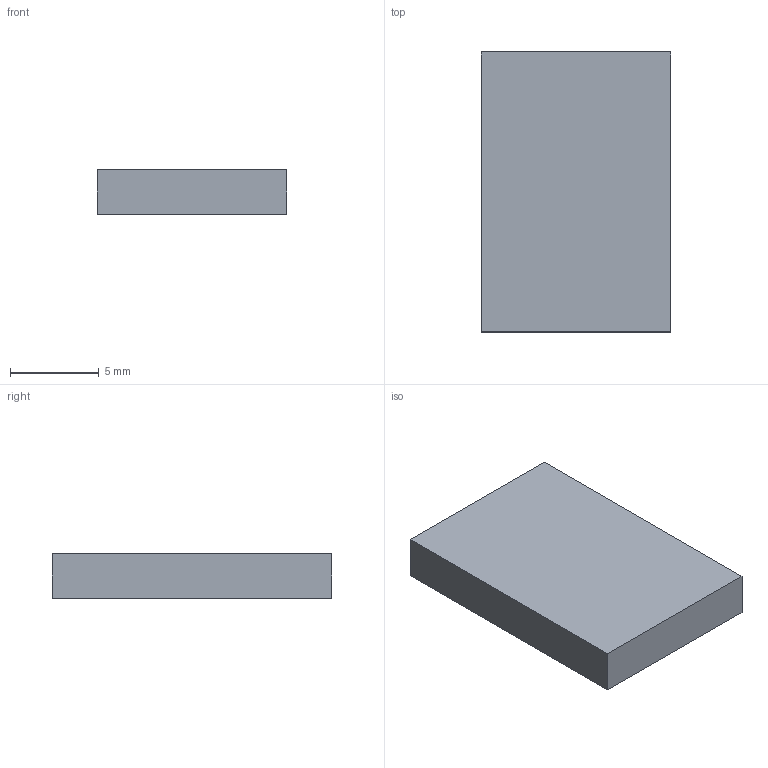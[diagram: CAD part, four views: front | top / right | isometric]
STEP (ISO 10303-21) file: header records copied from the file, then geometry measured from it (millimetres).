
FILE_DESCRIPTION(('Open CASCADE Model'),'2;1');
FILE_NAME('Open CASCADE Shape Model','2026-10-06T03:35:42',('Author'),( 'Open CASCADE'),'Open CASCADE STEP processor 7.8','Open CASCADE 7.8' ,'Unknown');
FILE_SCHEMA(('AUTOMOTIVE_DESIGN { 1 0 10303 214 1 1 1 1 }'));
Length unit declared in the file: millimetre
Products named in the file (1): Open CASCADE STEP translator 7.8 25
Bounding box: 10.7 x 15.8 x 2.5 mm (x, y, z)
Volume: 422.6 mm3; surface area: 470.6 mm2
Topology: 1 solids, 1 shells, 6 faces, 12 edges, 8 vertices
Faces by surface type: plane 6
Entity records: 322 total; most frequent: CARTESIAN_POINT 51, DIRECTION 50, LINE 36, VECTOR 36, ORIENTED_EDGE 24, PCURVE 24, DEFINITIONAL_REPRESENTATION 24, EDGE_CURVE 12
